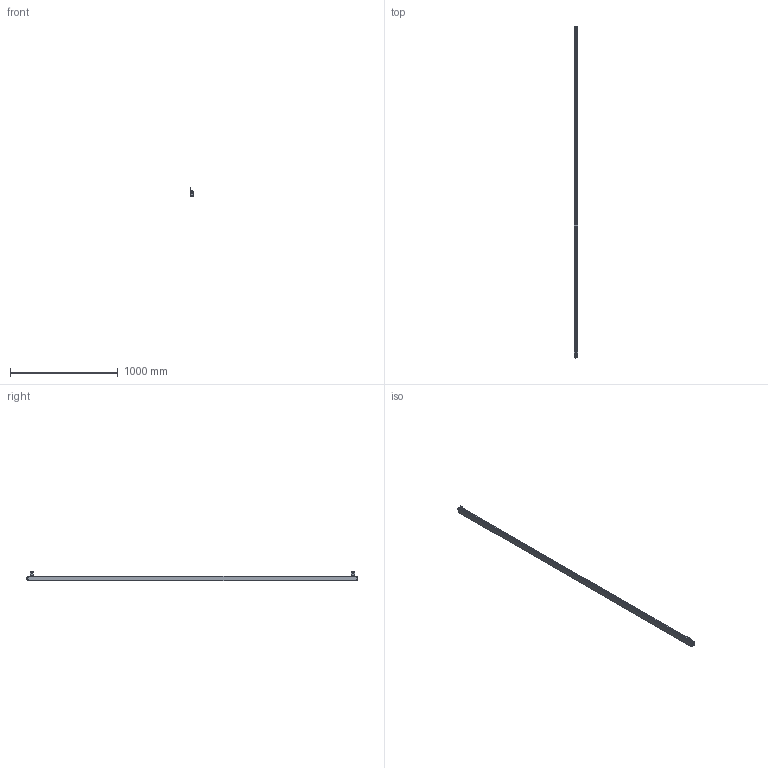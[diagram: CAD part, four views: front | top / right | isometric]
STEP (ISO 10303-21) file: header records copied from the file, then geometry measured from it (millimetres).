
FILE_DESCRIPTION((''),'2;1');
FILE_NAME('ESCL-00_ASM','2021-07-17T12:04:18',('18720616900'),(''),'CREO PARAMETRIC BY PTC INC, 2019010','CREO PARAMETRIC BY PTC INC, 2019010','');
FILE_SCHEMA(('CONFIG_CONTROL_DESIGN'));
Products named in the file (12): ESCL-00; ESCL-3-SOLID1000; ESCL-4-SOLID1000; HKCT1_-4-SOLID1; L10001; M6-8--0001; M6-1--00; M6-1-00; 00; M6-80001_ASM; L1--0001_ASM; ESCL-00_ASM
Assembly tree (12 placements, depth 4):
  ESCL-00_ASM
    ESCL-00
    ESCL-3-SOLID1000
    ESCL-4-SOLID1000
    HKCT1_-4-SOLID1
    L1--0001_ASM  x2
      L10001
      M6-80001_ASM
        M6-8--0001
        M6-1--00
        M6-1-00
        00
Bounding box: 36.1 x 3085.1 x 91.11 mm (x, y, z)
Volume: 4418124 mm3; surface area: 627875 mm2
Topology: 14 solids, 14 shells, 615 faces, 1615 edges, 1050 vertices
Faces by surface type: plane 226, cylinder 198, cone 78, bspline 66, torus 47
Entity records: 75827 total; most frequent: CARTESIAN_POINT 63931, ORIENTED_EDGE 2604, DIRECTION 2205, EDGE_CURVE 1302, VERTEX_POINT 852, AXIS2_PLACEMENT_3D 786, VECTOR 633, LINE 633
